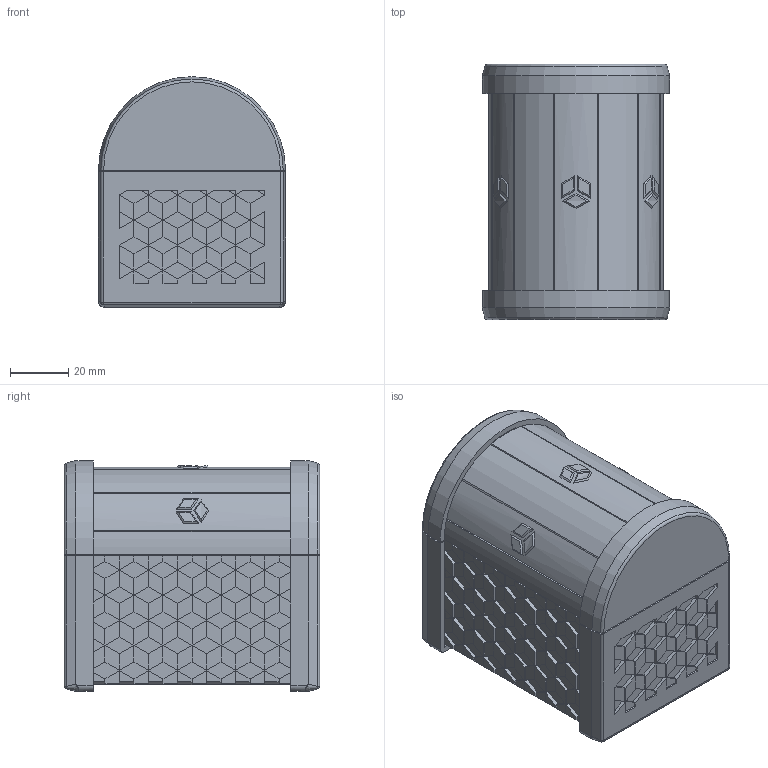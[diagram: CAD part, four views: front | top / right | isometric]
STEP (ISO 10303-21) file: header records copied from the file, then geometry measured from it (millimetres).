
FILE_DESCRIPTION(/* description */ (''),/* implementation_level */ '2;1');
FILE_NAME(/* name */ (''),/* time_stamp */ (''),/* author */ (''),/* organization */ (''),/* preprocessor_version */ 'ST-DEVELOPER v18.1',/* originating_system */ 'Autodesk Translation Framework v10.14.0.1471',/* authorisation */ '');
FILE_SCHEMA (('AUTOMOTIVE_DESIGN { 1 0 10303 214 3 1 1 }'));
Products named in the file (1): Easy Print Treasure Chest Puzzle
Bounding box: 64.5 x 88 x 79.5 mm (x, y, z)
Volume: 185272.8 mm3; surface area: 102391.5 mm2
Topology: 10 solids, 10 shells, 2030 faces, 5603 edges, 3606 vertices
Faces by surface type: plane 1610, cylinder 348, cone 38, bspline 32, torus 2
Full cylindrical faces by diameter (mm): 2 x3
Entity records: 64851 total; most frequent: CARTESIAN_POINT 12733, ORIENTED_EDGE 11188, DIRECTION 10423, EDGE_CURVE 5594, LINE 4437, VECTOR 4437, VERTEX_POINT 3606, AXIS2_PLACEMENT_3D 2993
